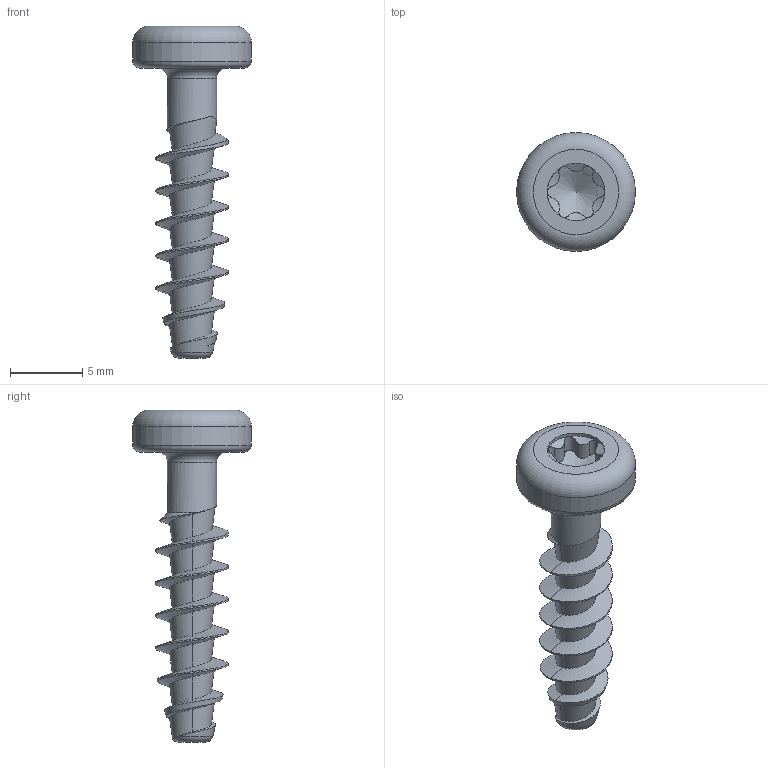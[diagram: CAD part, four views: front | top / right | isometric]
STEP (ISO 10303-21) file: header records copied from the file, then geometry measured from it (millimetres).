
FILE_DESCRIPTION(/* description */ (''),/* implementation_level */ '2;1');
FILE_NAME(/* name */ 'KN1039-STS-50x20-T20.step',/* time_stamp */ '2017-10-17T13:41:27+02:00',/* author */ (''),/* organization */ (''),/* preprocessor_version */ 'ST-DEVELOPER v16',/* originating_system */ 'SIEMENS PLM Software NX 10.0',/* authorisation */ '');
FILE_SCHEMA (('AUTOMOTIVE_DESIGN { 1 0 10303 214 3 1 1 1 }'));
Length unit declared in the file: millimetre
Products named in the file (1): KN1039-STS-50x20-T20
Bounding box: 8.2 x 8.2 x 22.9 mm (x, y, z)
Volume: 298.2 mm3; surface area: 494.6 mm2
Topology: 1 solids, 1 shells, 51 faces, 127 edges, 79 vertices
Faces by surface type: bspline 24, cylinder 16, cone 4, torus 4, plane 3
Full cylindrical faces by diameter (mm): 3.39 x1, 3.97 x1, 8.2 x1
Entity records: 3273 total; most frequent: CARTESIAN_POINT 2308, ORIENTED_EDGE 224, DIRECTION 115, EDGE_CURVE 112, VERTEX_POINT 74, B_SPLINE_CURVE_WITH_KNOTS 66, EDGE_LOOP 61, ADVANCED_FACE 51
